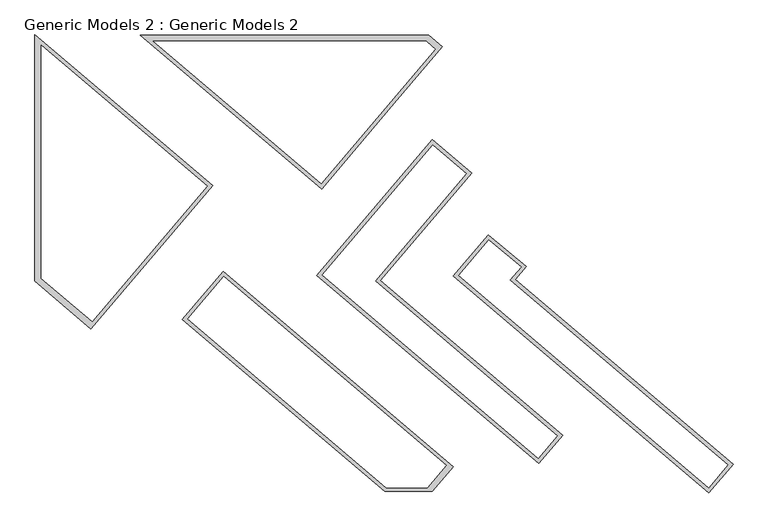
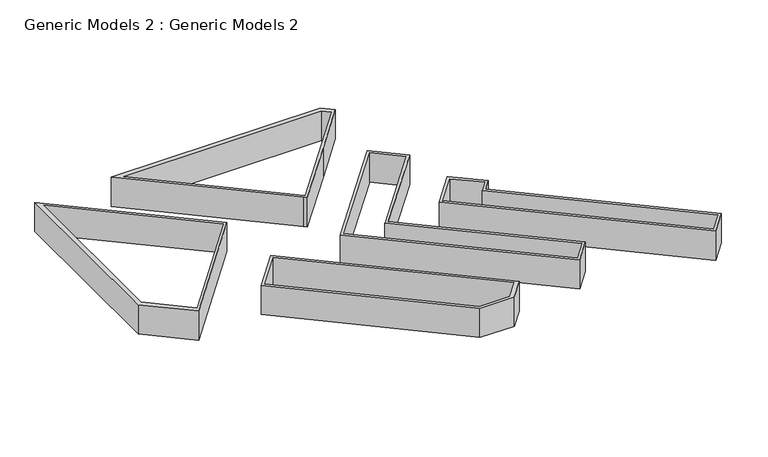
"""IFC4 building model written with IfcOpenShell, lengths in millimetres: proxy geometry, Generic Models 2 : Generic Models 2."""

from ifc_helpers import new_model, si_unit, origin, origin_with_axes, place, context, project, spatial, polyline, outline, extrude, source, transform, mapped, element, save


def generic_models_2_generic_models_2_cc9c7ebd(model_context):
    return source(origin(), model_context, "Body", "SweptSolid", [
        extrude(outline(polyline([(809057.2965229, 68428.302876), (796669.8527446, 53844.9031552), (790967.3442265, 58688.376963), (790967.3442265, 83792.8106931), (809057.2965229, 68428.302876)]), holes=[polyline([(808523.1655074, 68384.7918072), (791604.7892295, 82754.2340432), (791604.7892295, 58983.3014856), (796794.2144703, 54575.619296), (808523.1655074, 68384.7918072)])]), origin_with_axes(), (0.0, 0.0, 1.0), 4352.4796788),
        extrude(outline(polyline([(827262.9100309, 76474.8297503), (820150.8800111, 68101.2270732), (819765.7856273, 68428.302876), (801697.1955526, 83774.6669182), (831047.9955465, 83774.6669182), (832450.9147424, 82583.1124796), (827262.9100309, 76474.8297503)]), holes=[polyline([(820107.3660754, 68635.3547131), (831749.4400884, 82342.5665571), (830813.8242073, 83137.2219152), (803033.0745317, 83137.2219152), (820107.3660754, 68635.3547131)])]), origin_with_axes(), (0.0, 0.0, 1.0), 4352.4796788),
        extrude(outline(polyline([(831427.2844799, 73100.3440831), (835426.8994501, 69703.3138163), (826133.3817775, 58762.2423553), (844692.8667404, 42998.9419816), (842239.7202999, 40110.6423619), (819681.1057088, 59270.5607823), (831427.2844799, 73100.3440831)]), holes=[polyline([(842196.2063642, 40644.7700019), (844158.7145223, 42955.4489211), (825599.2404587, 58718.7400375), (834892.7697499, 69659.8251768), (831470.9340113, 72566.4037966), (820215.2196789, 59314.0863284), (842196.2063642, 40644.7700019)])]), origin_with_axes(), (0.0, 0.0, 1.0), 4352.4796788),
        extrude(outline(polyline([(833559.229347, 39797.8609265), (831416.7477049, 37275.2792268), (826593.1510173, 37275.2792268), (805986.3459959, 54777.4490307), (810150.510493, 59679.806325), (833559.229347, 39797.8609265)]), holes=[polyline([(810192.560742, 59163.4941699), (806503.1798754, 54820.0866951), (826725.2822763, 37641.584546), (830896.4406796, 37641.584546), (832839.1022941, 39928.8959241), (810192.560742, 59163.4941699)])]), origin_with_axes(), (0.0, 0.0, 1.0), 4352.4796788),
        extrude(outline(polyline([(859593.5588505, 37122.0679368), (833562.2499658, 59231.4821737), (837111.4169007, 63410.2206864), (841007.9219615, 60193.8757368), (839865.9603483, 58849.3464259), (862046.705291, 40010.3675565), (859593.5588505, 37122.0679368)]), holes=[polyline([(834096.3112235, 59275.0524905), (859550.0449147, 37656.1955768), (861512.5530729, 39966.8744959), (839331.8327083, 58805.8324902), (840470.3241957, 60146.2761245), (837161.8403155, 62877.2427863), (834096.3112235, 59275.0524905)])]), origin_with_axes(), (0.0, 0.0, 1.0), 4352.4796788),
    ])


if __name__ == "__main__":
    model = new_model("IFC4")
    model_context = context("Model", 3, world=origin())
    ifc_project = project(units=[si_unit("LENGTHUNIT", "METRE", prefix="MILLI")], contexts=[model_context])
    site = spatial("IfcSite", under=ifc_project)
    building = spatial("IfcBuilding", under=site)
    placement = place(None, origin())
    generic_models_2_generic_models_2_shape = generic_models_2_generic_models_2_cc9c7ebd(model_context)
    element("IfcBuildingElementProxy", 1, Name="Generic Models 2 : Generic Models 2", ObjectType="Generic Models 2 : Generic Models 2", at=placement, inside=building, context=model_context, shape_type="MappedRepresentation", body=[
        mapped(generic_models_2_generic_models_2_shape, transform((0.0, 0.0, 0.0), x_axis=(1.0, 0.0, 0.0), y_axis=(0.0, 1.0, 0.0), z_axis=(0.0, 0.0, 1.0))),
    ])
    save(model, "model.ifc")
